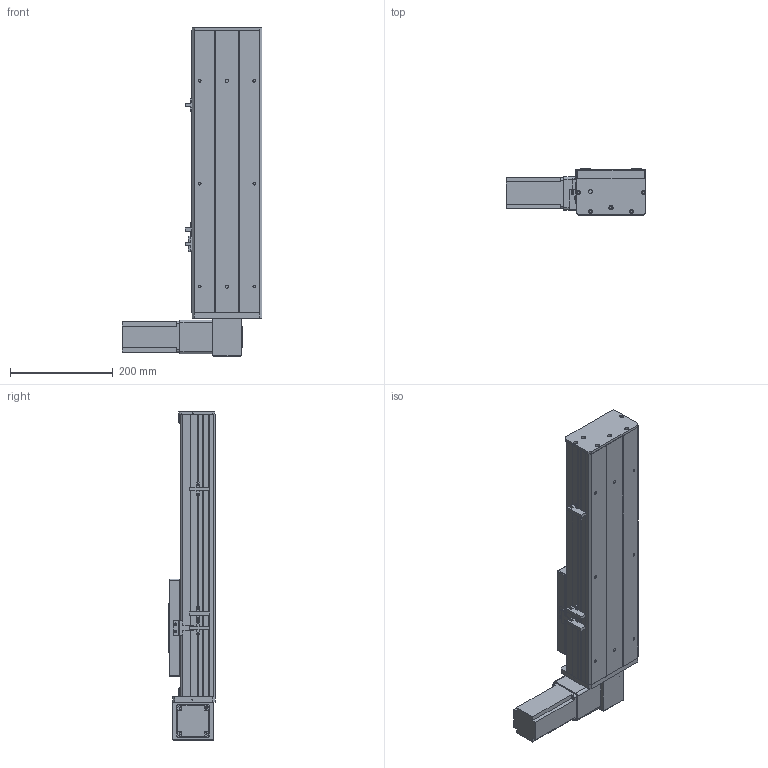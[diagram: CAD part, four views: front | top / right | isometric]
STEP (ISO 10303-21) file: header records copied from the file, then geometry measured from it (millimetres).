
FILE_DESCRIPTION (( 'STEP AP203' ), '1' );
FILE_NAME ('Y135CB-D90-S250-BD-P400W.STEP', '2020-02-19T02:50:44', ( '微软用户' ), ( '微软中国' ), 'SwSTEP 2.0', 'SolidWorks 2017', '' );
FILE_SCHEMA (( 'CONFIG_CONTROL_DESIGN' ));
Length unit declared in the file: millimetre
Products named in the file (16): Y10B--々湍喘謫眊--666; san松下电机400不带刹车----; 135CB---遴掛极.-; 0B-薊粣ん眊; 5CB --掛极耜裔啣-; 35CB---喘謫眊楊擘啣; Y135CB-D90-S250-BD-P400W; C-詩湍揤踡え-陔; 0B-埴倛裔啣; 135CB--詩湍-CE; 0B-源倛裔啣; Y100-135俋离換覜ん--; Y135C-陔俋离換覜結え-; 5C--俋欶; C-雄赽釱--; Y135CB-耜裔
Assembly tree (19 placements, depth 2):
  Y135CB-D90-S250-BD-P400W
    Y135CB-耜裔
    135CB---遴掛极.-
    35CB---喘謫眊楊擘啣
    0B-埴倛裔啣
    0B-源倛裔啣
    san松下电机400不带刹车----
    5CB --掛极耜裔啣-  x2
    C-詩湍揤踡え-陔  x2
    135CB--詩湍-CE
    Y100-135俋离換覜ん--  x3
    Y135C-陔俋离換覜結え-
    5C--俋欶
    C-雄赽釱--
    Y10B--々湍喘謫眊--666
    0B-薊粣ん眊
Bounding box: 272 x 91 x 638 mm (x, y, z)
Volume: 2439165.9 mm3; surface area: 890579.8 mm2
Topology: 19 solids, 19 shells, 839 faces, 2194 edges, 1452 vertices
Faces by surface type: plane 415, cylinder 408, cone 16
Entity records: 25198 total; most frequent: DIRECTION 4198, CARTESIAN_POINT 4071, ORIENTED_EDGE 3864, EDGE_CURVE 1932, AXIS2_PLACEMENT_3D 1531, VERTEX_POINT 1280, VECTOR 1136, LINE 1136
